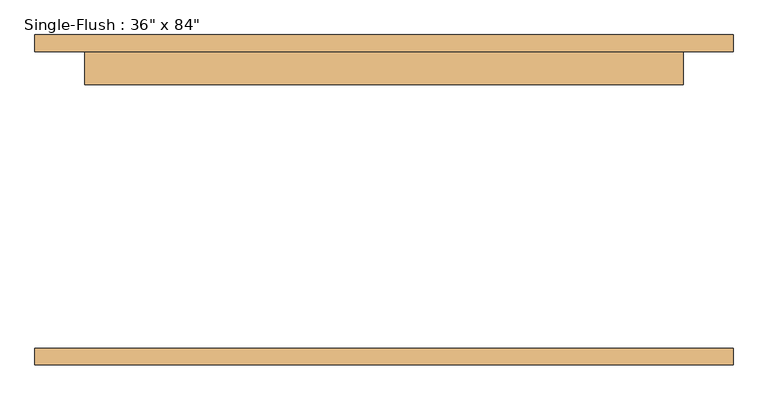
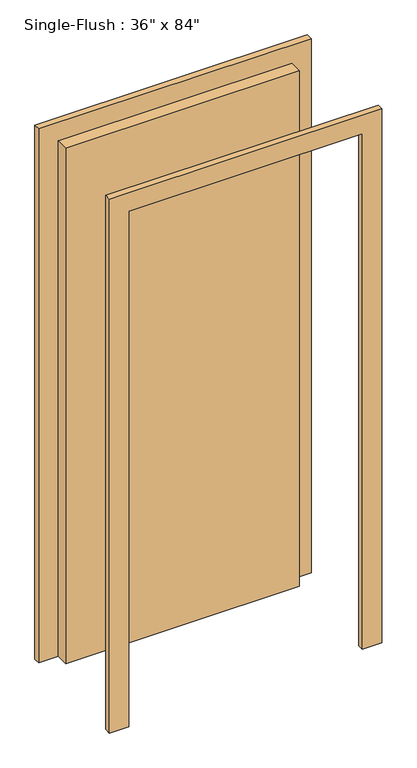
"""IFC4 building model written with IfcOpenShell, lengths in millimetres: door geometry."""

from ifc_helpers import new_model, si_unit, frame, origin, origin_with_axes, place, context, project, spatial, polyline, outline, extrude, source, transform, mapped, element, save


def door_506e7aec(model_context):
    return source(origin(), model_context, "Body", "SweptSolid", [
        extrude(outline(polyline([(2209.8, -533.4), (0.0, -533.4), (0.0, -457.2), (2133.6, -457.2), (2133.6, 457.2), (0.0, 457.2), (0.0, 533.4), (2209.8, 533.4), (2209.8, -533.4)])), frame((0.0, 227.0125, 0.0), z_axis=(0.0, 1.0, 0.0), x_axis=(0.0, 0.0, 1.0)), (0.0, 0.0, 1.0), 25.4),
        extrude(outline(polyline([(2209.8, 533.4), (2209.8, -533.4), (0.0, -533.4), (0.0, -457.2), (2133.6, -457.2), (2133.6, 457.2), (0.0, 457.2), (0.0, 533.4), (2209.8, 533.4)])), frame((0.0, -252.4125, 0.0), z_axis=(0.0, 1.0, 0.0), x_axis=(0.0, 0.0, 1.0)), (0.0, 0.0, 1.0), 25.4),
        extrude(outline(polyline([(457.2, 176.2125), (-457.2, 176.2125), (-457.2, 227.0125), (457.2, 227.0125), (457.2, 176.2125)])), origin_with_axes(), (0.0, 0.0, 1.0), 2133.6),
    ])


if __name__ == "__main__":
    model = new_model("IFC4")
    model_context = context("Model", 3, world=origin())
    ifc_project = project(units=[si_unit("LENGTHUNIT", "METRE", prefix="MILLI")], contexts=[model_context])
    site = spatial("IfcSite", under=ifc_project)
    building = spatial("IfcBuilding", under=site)
    placement = place(None, origin())
    door_shape = door_506e7aec(model_context)
    element("IfcDoor", 1, ObjectType="Single-Flush : 36\" x 84\"", at=placement, inside=building, context=model_context, shape_type="MappedRepresentation", body=[
        mapped(door_shape, transform((0.0, 0.0, 0.0), x_axis=(1.0, 0.0, 0.0), y_axis=(0.0, 1.0, 0.0), z_axis=(0.0, 0.0, 1.0))),
    ])
    save(model, "model.ifc")
